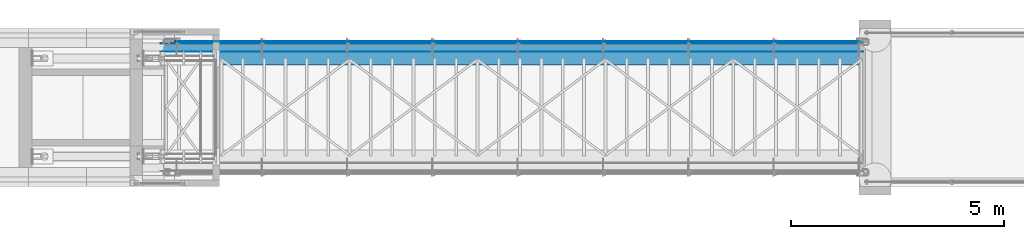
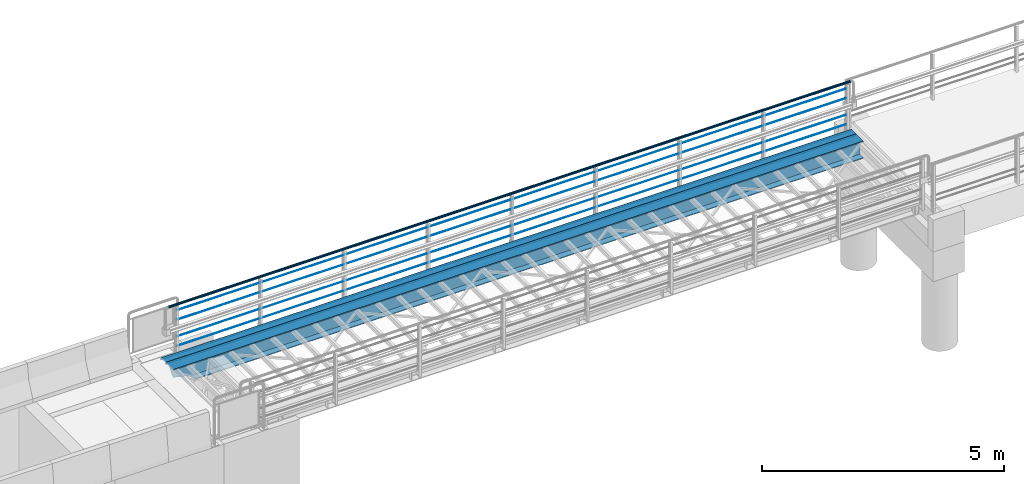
# One storey, part 11 of 31: 9 beams.
"""IFC2X3 building model written with IfcOpenShell, lengths in millimetres."""

import ifcopenshell
import ifcopenshell.guid

model = None  # the IFC model being written
_history = None  # IfcOwnerHistory: only IFC2X3 demands one
_inside = {}  # id of a spatial element -> (the spatial element, [elements in it])
_under = {}  # id of a project, library or spatial element -> (it, [spatial elements below it])
_declared = {}  # id of a project -> (the project, [libraries it declares])
_typed = {}  # id of a type object -> (the type object, [elements of that type])
_made_of = {}  # id of a material, layer set ... -> (it, [elements and type objects made of it])


def new_model(schema):
    """Start an empty IFC model of exactly this schema.

    Asked for "IFC4X3", IfcOpenShell would pick the latest addendum, in which some entities
    have other attributes; the version numbers below select the first issue.
    IFC2X3 requires an IfcOwnerHistory on every rooted entity: one is made here for all.
    """
    global model, _history
    if schema == "IFC4X3":
        model = ifcopenshell.file(schema_version=(4, 3, 0, 0))
    else:
        model = ifcopenshell.file(schema=schema)
    _inside.clear()
    _under.clear()
    _declared.clear()
    _typed.clear()
    _made_of.clear()
    _history = None
    if model.schema == "IFC2X3":
        org = make("IfcOrganization", Name="unknown")
        user = make(
            "IfcPersonAndOrganization",
            ThePerson=make("IfcPerson", FamilyName="unknown"),
            TheOrganization=org,
        )
        app = make(
            "IfcApplication",
            ApplicationDeveloper=org,
            Version="unknown",
            ApplicationFullName="unknown",
            ApplicationIdentifier="unknown",
        )
        _history = make(
            "IfcOwnerHistory",
            OwningUser=user,
            OwningApplication=app,
            ChangeAction="ADDED",
            CreationDate=0,
        )
    return model


def make(cls, **values):
    """One entity of the class cls with the attributes given. An attribute that is None is left unset."""
    return model.create_entity(
        cls, **{name: value for name, value in values.items() if value is not None}
    )


def rooted(cls, **values):
    """An entity with a GlobalId (a new one), such as an element, a storey or a relation."""
    return make(cls, GlobalId=ifcopenshell.guid.new(), OwnerHistory=_history, **values)


def si_unit(unit_type, name, prefix=None):
    """IfcSIUnit, for example si_unit("LENGTHUNIT", "METRE", prefix="MILLI")."""
    return make("IfcSIUnit", UnitType=unit_type, Prefix=prefix, Name=name)


def assignment(units):
    """IfcUnitAssignment: the units of a project."""
    return None if units is None else make("IfcUnitAssignment", Units=units)


def point(xyz):
    """IfcCartesianPoint."""
    return None if xyz is None else make("IfcCartesianPoint", Coordinates=xyz)


def direction(xyz):
    """IfcDirection."""
    return None if xyz is None else make("IfcDirection", DirectionRatios=xyz)


def frame(location, z_axis=None, x_axis=None):
    """IfcAxis2Placement3D, a coordinate frame: its origin and axes. An axis left out is left unset."""
    return make(
        "IfcAxis2Placement3D",
        Location=point(location),
        Axis=direction(z_axis),
        RefDirection=direction(x_axis),
    )


def origin_with_axes():
    """The frame at (0, 0, 0) with the z axis (0, 0, 1) and the x axis (1, 0, 0) written out."""
    return frame((0.0, 0.0, 0.0), z_axis=(0.0, 0.0, 1.0), x_axis=(1.0, 0.0, 0.0))


def place(relative_to, where):
    """IfcLocalPlacement: puts the frame where relative to a parent placement (None: the world)."""
    return make(
        "IfcLocalPlacement", PlacementRelTo=relative_to, RelativePlacement=where
    )


def context(
    kind, dimensions, precision=None, world=None, true_north=None, identifier=None
):
    """IfcGeometricRepresentationContext, for example the 3D "Model" context."""
    return make(
        "IfcGeometricRepresentationContext",
        ContextIdentifier=identifier,
        ContextType=kind,
        CoordinateSpaceDimension=dimensions,
        Precision=precision,
        WorldCoordinateSystem=world,
        TrueNorth=true_north,
    )


def subcontext(parent, identifier, kind, view, scale=None):
    """IfcGeometricRepresentationSubContext, for example "Body" below "Model"."""
    return make(
        "IfcGeometricRepresentationSubContext",
        ContextIdentifier=identifier,
        ContextType=kind,
        ParentContext=parent,
        TargetScale=scale,
        TargetView=view,
    )


def project(units=None, contexts=None):
    """IfcProject with its units and contexts."""
    return rooted(
        "IfcProject",
        Name="project",
        RepresentationContexts=contexts,
        UnitsInContext=assignment(units),
    )


def spatial(cls, under=None, at=None, **own):
    """A site, building, storey or space (cls), placed at a placement, below another one or the project."""
    s = rooted(cls, ObjectPlacement=at, **own)
    if under is not None:
        _under.setdefault(under.id(), (under, []))[1].append(s)
    return s


def faces_of(points, faces, orient=None, outer=None):
    """IfcFace entities. A face is a list of loops; a loop is a list of indices into points, from 0.

    orient and outer hold one flag for each loop. By default every Orientation is true, the
    first loop of a face is its IfcFaceOuterBound and the others are IfcFaceBound.
    """
    made = []
    for i, loops in enumerate(faces):
        bounds = []
        for j, loop in enumerate(loops):
            is_outer = j == 0 if outer is None else outer[i][j]
            bounds.append(
                make(
                    "IfcFaceOuterBound" if is_outer else "IfcFaceBound",
                    Bound=make("IfcPolyLoop", Polygon=[points[k] for k in loop]),
                    Orientation=True if orient is None else orient[i][j],
                )
            )
        made.append(make("IfcFace", Bounds=bounds))
    return made


def faceted_brep(points, faces, orient=None, outer=None, voids=None):
    """IfcFacetedBrep: a solid bounded by flat faces; with voids (closed shells), ...WithVoids."""
    shared = [point(p) for p in points]
    hull = make("IfcClosedShell", CfsFaces=faces_of(shared, faces, orient, outer))
    if voids is None:
        return make("IfcFacetedBrep", Outer=hull)
    return make(
        "IfcFacetedBrepWithVoids",
        Outer=hull,
        Voids=[
            make(cls, CfsFaces=faces_of(shared, fs, o, b)) for cls, fs, o, b in voids
        ],
    )


def shape(context_of_items, identifier, shape_type, items):
    """IfcShapeRepresentation: the items that make up one representation, for example the "Body"."""
    return make(
        "IfcShapeRepresentation",
        ContextOfItems=context_of_items,
        RepresentationIdentifier=identifier,
        RepresentationType=shape_type,
        Items=items,
    )


def material(Name=None, Category=None):
    """IfcMaterial."""
    return make("IfcMaterial", Name=Name, Category=Category)


def made_of(thing, what):
    """Note that an element or type object is made of a material, layer set ...; save() writes the relation."""
    if what is not None:
        _made_of.setdefault(what.id(), (what, []))[1].append(thing)
    return thing


def type_object(cls, material=None, **own):
    """A type object (cls), such as IfcWallType, which elements share."""
    return made_of(rooted(cls, **own), material)


def element(
    cls,
    number,
    at=None,
    inside=None,
    cuts=None,
    type_object=None,
    material=None,
    context=None,
    identifier="Body",
    shape_type=None,
    held_by="IfcProductDefinitionShape",
    body=None,
    shapes=None,
    **own,
):
    """One element of the class cls, such as IfcWall. Its Tag is "e" and its number.

    at: its placement. inside: the storey or other place that contains it. cuts: it is an
    opening in that element (IfcRelVoidsElement). A single representation is given by context,
    identifier, shape_type and body (its items); several are given by shapes. held_by: the class
    of the entity that holds the representations. save() writes the other relations.
    """
    e = rooted(cls, Tag="e%d" % number, ObjectPlacement=at, **own)
    if body is not None:
        shapes = [shape(context, identifier, shape_type, body)]
    if shapes is not None:
        e.Representation = make(held_by, Representations=shapes)
    if inside is not None:
        _inside.setdefault(inside.id(), (inside, []))[1].append(e)
    if cuts is not None:
        rooted(
            "IfcRelVoidsElement", RelatingBuildingElement=cuts, RelatedOpeningElement=e
        )
    if type_object is not None:
        _typed.setdefault(type_object.id(), (type_object, []))[1].append(e)
    return made_of(e, material)


def aggregate(whole, parts):
    """IfcRelAggregates: a whole, such as a stair, and the parts it consists of."""
    return rooted("IfcRelAggregates", RelatingObject=whole, RelatedObjects=parts)


def save(model, path):
    """Write the relations noted so far, then the file.

    IfcRelAggregates (storeys below a building ...), IfcRelContainedInSpatialStructure (elements
    in a storey), IfcRelDefinesByType, IfcRelAssociatesMaterial and IfcRelDeclares: one each for
    every whole, place, type object, material and project.
    """
    for whole, parts in _under.values():
        aggregate(whole, parts)
    for where, things in _inside.values():
        rooted(
            "IfcRelContainedInSpatialStructure",
            RelatedElements=things,
            RelatingStructure=where,
        )
    for kind, things in _typed.values():
        rooted("IfcRelDefinesByType", RelatedObjects=things, RelatingType=kind)
    for what, things in _made_of.values():
        rooted("IfcRelAssociatesMaterial", RelatedObjects=things, RelatingMaterial=what)
    for by, libraries in _declared.values():
        rooted("IfcRelDeclares", RelatingContext=by, RelatedDefinitions=libraries)
    model.write(path)


model = new_model("IFC2X3")

# Units and contexts
model_context = context("Model", 3, precision=1e-05, world=origin_with_axes())
body_context = subcontext(model_context, "Body", "Model", "MODEL_VIEW")
ifc_project = project(units=[si_unit("LENGTHUNIT", "METRE", prefix="MILLI"), si_unit("AREAUNIT", "SQUARE_METRE"), si_unit("VOLUMEUNIT", "CUBIC_METRE"), si_unit("MASSUNIT", "GRAM", prefix="KILO"), si_unit("TIMEUNIT", "SECOND"), si_unit("PLANEANGLEUNIT", "RADIAN"), si_unit("SOLIDANGLEUNIT", "STERADIAN"), si_unit("THERMODYNAMICTEMPERATUREUNIT", "DEGREE_CELSIUS"), si_unit("LUMINOUSINTENSITYUNIT", "LUMEN")], contexts=[model_context])

# Site, building, storey
site_placement = place(None, origin_with_axes())
site = spatial("IfcSite", under=ifc_project, at=site_placement, Name="Undefined", CompositionType="ELEMENT")
building_placement = place(site_placement, origin_with_axes())
building = spatial("IfcBuilding", under=site, at=building_placement, Name="Undefined", CompositionType="ELEMENT")
storey_placement = place(building_placement, origin_with_axes())
storey = spatial("IfcBuildingStorey", under=building, at=storey_placement, Name="Undefined", CompositionType="ELEMENT", Elevation=0.0)

# Beams
ifc_material = material(Name="STEEL/S355J2+N")
beam_type_1 = type_object("IfcBeamType", Name="HEA450", PredefinedType="NOTDEFINED")
beam_1_placement = place(storey_placement, frame((2700.0, 2300.0, -220.0), z_axis=(0.0, 0.0, 1.0), x_axis=(1.0, 0.0, 0.0)))
element("IfcBeam", 1, at=beam_1_placement, inside=storey, type_object=beam_type_1, material=ifc_material, Name="STÅLBJELKE", context=body_context, shape_type="Brep", body=[
    faceted_brep([(16800.0, 5.75, -199.0), (16800.0, 150.0, -199.0), (848.105577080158, 150.0, -199.0), (848.105577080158, 5.75, -199.0), (16800.0, -150.0, -220.0), (16800.0, -150.0, -199.0), (848.105577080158, -150.0, -199.0), (849.999999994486, -150.0, -199.445728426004), (849.993362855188, -150.0, -220.0), (16800.0, 150.0, -220.0), (849.993362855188, 150.0, -220.0), (849.999999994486, 150.0, -199.445728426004), (16800.0, 5.75, 199.0), (16800.0, 150.0, 199.0), (16800.0, 150.0, 220.0), (16800.0, -150.0, 220.0), (16800.0, -150.0, 199.0), (16800.0, -5.75, 199.0), (16800.0, -5.75, -199.0), (848.105577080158, -5.75, -199.0), (415.82694794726, -5.75, -97.2915211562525), (415.82694794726, 5.75, -97.2915211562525), (327.160653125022, 5.75, 199.0), (327.160653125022, 150.0, 199.0), (320.876328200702, 150.0, 220.0), (320.876328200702, -150.0, 220.0), (327.160653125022, -150.0, 199.0), (327.160653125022, -5.75, 199.0)], [[[0, 1, 2, 3]], [[4, 5, 6, 7, 8]], [[9, 4, 8, 10]], [[7, 11, 10, 8]], [[1, 9, 10, 11, 2]], [[0, 12, 13, 14, 15, 16, 17, 18, 5, 4, 9, 1]], [[5, 18, 19, 6]], [[3, 2, 11, 7, 6, 19, 20, 21]], [[12, 0, 3, 21, 22]], [[13, 12, 22, 23]], [[14, 13, 23, 24]], [[15, 14, 24, 25]], [[16, 15, 25, 26]], [[17, 16, 26, 27]], [[19, 18, 17, 27, 20]], [[26, 25, 24, 23, 22, 21, 20, 27]]]),
])
beam_type_2 = type_object("IfcBeamType", Name="D12", PredefinedType="NOTDEFINED")
for number, where, z_axis, x_axis in (
    (2, (19400.0, 2700.0, 780.0), (0.0, -1.0, 0.0), (-1.0, 0.0, 0.0)),
    (3, (19400.0, 2700.0, 1020.0), (0.0, -1.0, 0.0), (-1.0, 0.0, 0.0)),
    (4, (19400.0, 2700.0, 360.0), (0.0, -1.0, 0.0), (-1.0, 0.0, 0.0)),
    (5, (19400.0, 2700.0, 120.0), (0.0, -1.0, 0.0), (-1.0, 0.0, 0.0)),
):
    element("IfcBeam", number, at=place(storey_placement, frame(where, z_axis=z_axis, x_axis=x_axis)), inside=storey, type_object=beam_type_2, material=ifc_material, Name="REKKVERK", context=body_context, shape_type="Brep", body=[
        faceted_brep([(0.0, -6.0, 0.0), (0.0, -4.24264068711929, -4.24264068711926), (15960.0, -4.24264068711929, -4.24264068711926), (15960.0, -6.0, 0.0), (0.0, 0.0, -6.0), (15960.0, 0.0, -6.0), (0.0, 4.24264068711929, -4.24264068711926), (15960.0, 4.24264068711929, -4.24264068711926), (0.0, 6.0, 0.0), (15960.0, 6.0, 0.0), (0.0, 4.24264068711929, 4.24264068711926), (15960.0, 4.24264068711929, 4.24264068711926), (0.0, 0.0, 6.0), (15960.0, 0.0, 6.0), (0.0, -4.24264068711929, 4.24264068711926), (15960.0, -4.24264068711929, 4.24264068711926)], [[[0, 1, 2, 3]], [[1, 4, 5, 2]], [[4, 6, 7, 5]], [[6, 8, 9, 7]], [[8, 10, 11, 9]], [[10, 12, 13, 11]], [[12, 14, 15, 13]], [[14, 0, 3, 15]], [[5, 7, 9, 11, 13, 15, 3, 2]], [[14, 12, 10, 8, 6, 4, 1, 0]]]),
    ])
beam_type_3 = type_object("IfcBeamType", Name="CFCHS60.3*3.2", PredefinedType="NOTDEFINED")
beam_2_placement = place(storey_placement, frame((19500.0, 2700.0, 1169.85), z_axis=(0.0, 1.0, 0.0), x_axis=(-1.0, 0.0, 0.0)))
element("IfcBeam", 6, at=beam_2_placement, inside=storey, type_object=beam_type_3, material=ifc_material, Name="REKKVERK", context=body_context, shape_type="Brep", body=[
    faceted_brep([(0.0, -26.95, 0.0), (0.0, -24.898553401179, 10.3133185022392), (16263.85, -24.8985534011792, 10.3133185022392), (16263.85, -26.95, 0.0), (0.0, -19.0565277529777, 19.0565277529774), (16263.85, -19.0565277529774, 19.0565277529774), (0.0, -10.3133185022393, 24.8985534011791), (16263.85, -10.3133185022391, 24.8985534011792), (0.0, 0.0, 26.95), (16263.85, 0.0, 26.95), (0.0, 10.3133185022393, 24.8985534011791), (16263.85, 10.3133185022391, 24.8985534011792), (0.0, 19.0565277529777, 19.0565277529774), (16263.85, 19.0565277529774, 19.0565277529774), (0.0, 24.898553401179, 10.3133185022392), (16263.85, 24.8985534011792, 10.3133185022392), (0.0, 26.95, 0.0), (16263.85, 26.95, 0.0), (0.0, 24.898553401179, -10.3133185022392), (16263.85, 24.8985534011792, -10.3133185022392), (0.0, 19.0565277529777, -19.0565277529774), (16263.85, 19.0565277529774, -19.0565277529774), (0.0, 10.3133185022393, -24.8985534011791), (16263.85, 10.3133185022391, -24.8985534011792), (0.0, 0.0, -26.95), (16263.85, 0.0, -26.95), (0.0, -10.3133185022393, -24.8985534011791), (16263.85, -10.3133185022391, -24.8985534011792), (0.0, -19.0565277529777, -19.0565277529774), (16263.85, -19.0565277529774, -19.0565277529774), (0.0, -24.898553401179, -10.3133185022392), (16263.85, -24.8985534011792, -10.3133185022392), (0.0, -30.15, 0.0), (0.0, -27.8549679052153, -11.5379054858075), (16263.85, -27.8549679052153, -11.5379054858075), (16263.85, -30.1500000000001, 0.0), (0.0, -21.3192694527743, -21.3192694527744), (16263.85, -21.3192694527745, -21.3192694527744), (0.0, -11.5379054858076, -27.8549679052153), (16263.85, -11.5379054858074, -27.8549679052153), (0.0, 0.0, -30.15), (16263.85, 0.0, -30.15), (0.0, 11.5379054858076, -27.8549679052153), (16263.85, 11.5379054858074, -27.8549679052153), (0.0, 21.3192694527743, -21.3192694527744), (16263.85, 21.3192694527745, -21.3192694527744), (0.0, 27.8549679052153, -11.5379054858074), (16263.85, 27.8549679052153, -11.5379054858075), (0.0, 30.15, 0.0), (16263.85, 30.1500000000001, 0.0), (0.0, 27.8549679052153, 11.5379054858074), (16263.85, 27.8549679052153, 11.5379054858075), (0.0, 21.3192694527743, 21.3192694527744), (16263.85, 21.3192694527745, 21.3192694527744), (0.0, 11.5379054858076, 27.8549679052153), (16263.85, 11.5379054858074, 27.8549679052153), (0.0, 0.0, 30.15), (16263.85, 0.0, 30.15), (0.0, -11.5379054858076, 27.8549679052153), (16263.85, -11.5379054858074, 27.8549679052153), (0.0, -21.3192694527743, 21.3192694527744), (16263.85, -21.3192694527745, 21.3192694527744), (0.0, -27.8549679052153, 11.5379054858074), (16263.85, -27.8549679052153, 11.5379054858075)], [[[0, 1, 2, 3]], [[1, 4, 5, 2]], [[4, 6, 7, 5]], [[6, 8, 9, 7]], [[8, 10, 11, 9]], [[10, 12, 13, 11]], [[12, 14, 15, 13]], [[14, 16, 17, 15]], [[16, 18, 19, 17]], [[18, 20, 21, 19]], [[20, 22, 23, 21]], [[22, 24, 25, 23]], [[24, 26, 27, 25]], [[26, 28, 29, 27]], [[28, 30, 31, 29]], [[30, 0, 3, 31]], [[32, 33, 34, 35]], [[33, 36, 37, 34]], [[36, 38, 39, 37]], [[38, 40, 41, 39]], [[40, 42, 43, 41]], [[42, 44, 45, 43]], [[44, 46, 47, 45]], [[46, 48, 49, 47]], [[48, 50, 51, 49]], [[50, 52, 53, 51]], [[52, 54, 55, 53]], [[54, 56, 57, 55]], [[56, 58, 59, 57]], [[58, 60, 61, 59]], [[60, 62, 63, 61]], [[62, 32, 35, 63]], [[37, 39, 41, 43, 45, 47, 49, 51, 53, 55, 57, 59, 61, 63, 35, 34], [5, 7, 9, 11, 13, 15, 17, 19, 21, 23, 25, 27, 29, 31, 3, 2]], [[62, 60, 58, 56, 54, 52, 50, 48, 46, 44, 42, 40, 38, 36, 33, 32], [30, 28, 26, 24, 22, 20, 18, 16, 14, 12, 10, 8, 6, 4, 1, 0]]]),
])
beam_type_4 = type_object("IfcBeamType", Name="FL200*5", PredefinedType="NOTDEFINED")
beam_3_placement = place(storey_placement, frame((3020.00000770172, 2550.00126896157, -2.5), z_axis=(0.0, -1.0, 0.0), x_axis=(1.0, 0.0, 0.0)))
element("IfcBeam", 7, at=beam_3_placement, inside=storey, type_object=beam_type_4, material=ifc_material, Name="RIST", context=body_context, shape_type="Brep", body=[
    faceted_brep([(1.04591890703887e-11, 2.5, -100.0), (-1.04591890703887e-11, 2.5, 100.0), (16479.9999999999, 2.5, 100.000000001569), (16480.0, 2.5, -99.9999999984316), (-1.04591890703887e-11, -2.5, 100.0), (16479.9999999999, -2.5, 100.000000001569), (1.04591890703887e-11, -2.5, -100.0), (16480.0, -2.5, -99.9999999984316)], [[[0, 1, 2, 3]], [[1, 4, 5, 2]], [[4, 6, 7, 5]], [[6, 0, 3, 7]], [[5, 7, 3, 2]], [[6, 4, 1, 0]]]),
])
beam_type_5 = type_object("IfcBeamType", Name="FL50*5", PredefinedType="NOTDEFINED")
for number, where, z_axis, x_axis in (
    (8, (19499.9999998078, 2647.5, -30.0), (0.0, 0.0, -1.0), (-1.0, 0.0, 0.0)),
    (9, (19500.0000001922, 2452.5, -30.0), (0.0, 0.0, -1.0), (-1.0, 0.0, 0.0)),
):
    element("IfcBeam", number, at=place(storey_placement, frame(where, z_axis=z_axis, x_axis=x_axis)), inside=storey, type_object=beam_type_5, material=ifc_material, Name="STÅLBJELKE", context=body_context, shape_type="Brep", body=[
        faceted_brep([(0.0, 2.5, -25.0), (0.0, 2.5, 25.0), (16480.0000000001, 2.50000000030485, 25.0), (16480.0000000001, 2.50000000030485, -25.0), (-7.27595761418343e-12, -2.50000000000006, 25.0), (16480.0, -2.49999999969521, 25.0), (-7.27595761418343e-12, -2.50000000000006, -25.0), (16480.0, -2.49999999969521, -25.0)], [[[0, 1, 2, 3]], [[1, 4, 5, 2]], [[4, 6, 7, 5]], [[6, 0, 3, 7]], [[5, 7, 3, 2]], [[6, 4, 1, 0]]]),
    ])

save(model, "model.ifc")
